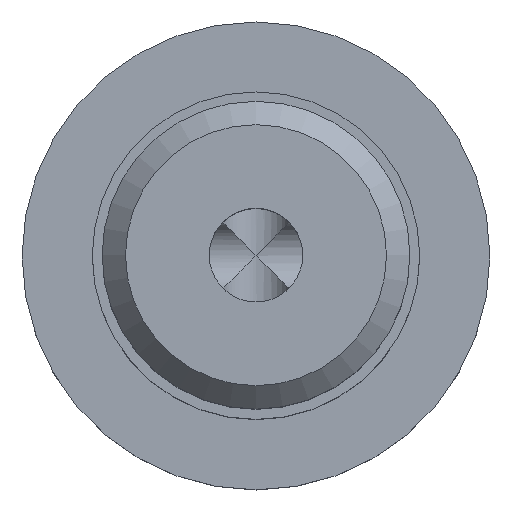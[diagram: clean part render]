
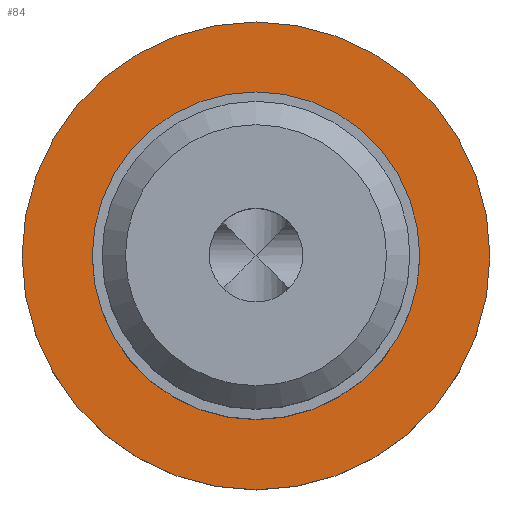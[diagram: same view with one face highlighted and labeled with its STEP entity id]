
A CAD part, top view. The second image highlights one B-rep face of the part: STEP entity #84.
In plain terms, the highlighted planar face has unit normal (0, 0, 1).
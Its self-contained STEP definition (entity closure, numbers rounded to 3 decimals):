
#84=ADVANCED_FACE('',(#136,#137),#138,.T.);
#136=FACE_BOUND('',#215,.T.);
#137=FACE_OUTER_BOUND('',#216,.T.);
#138=PLANE('',#217);
#215=EDGE_LOOP('',(#333));
#216=EDGE_LOOP('',(#334));
#217=AXIS2_PLACEMENT_3D('',#335,#336,#337);
#333=ORIENTED_EDGE('',*,*,#487,.T.);
#334=ORIENTED_EDGE('',*,*,#486,.F.);
#335=CARTESIAN_POINT('',(10.0,0.0,3.));
#336=DIRECTION('',(0.0,0.,1.0));
#337=DIRECTION('',(0.0,-1.0,0.));
#486=EDGE_CURVE('',#564,#564,#565,.T.);
#487=EDGE_CURVE('',#566,#566,#567,.T.);
#564=VERTEX_POINT('',#941);
#565=CIRCLE('',#942,10.0);
#566=VERTEX_POINT('',#943);
#567=CIRCLE('',#944,7.0);
#941=CARTESIAN_POINT('',(0.0,10.0,3.));
#942=AXIS2_PLACEMENT_3D('',#1045,#1046,#1047);
#943=CARTESIAN_POINT('',(0.0,7.0,3.));
#944=AXIS2_PLACEMENT_3D('',#1048,#1049,#1050);
#1045=CARTESIAN_POINT('',(0.0,0.0,3.));
#1046=DIRECTION('',(0.0,0.,-1.0));
#1047=DIRECTION('',(0.0,1.0,0.));
#1048=CARTESIAN_POINT('',(0.0,0.0,3.));
#1049=DIRECTION('',(0.0,0.,-1.0));
#1050=DIRECTION('',(0.0,1.0,0.));
